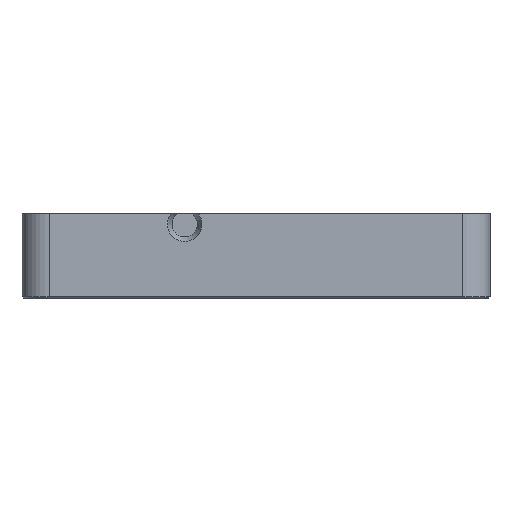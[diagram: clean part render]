
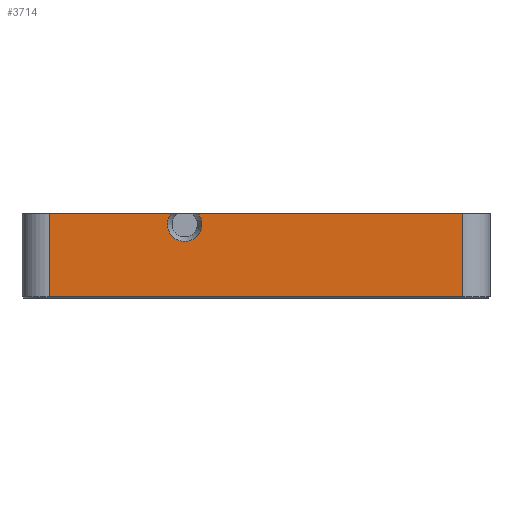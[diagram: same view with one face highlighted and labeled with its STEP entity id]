
A CAD part, left-side view. The second image highlights one B-rep face of the part: STEP entity #3714.
In plain terms, the highlighted planar face has unit normal (-1, 0, 0).
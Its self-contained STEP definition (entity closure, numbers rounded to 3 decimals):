
#100 = CYLINDRICAL_SURFACE('',#101,5.2);
#101 = AXIS2_PLACEMENT_3D('',#102,#103,#104);
#102 = CARTESIAN_POINT('',(-1.6,-76.6,0.));
#103 = DIRECTION('',(0.,0.,1.));
#104 = DIRECTION('',(0.,-1.,0.));
#127 = PLANE('',#128);
#128 = AXIS2_PLACEMENT_3D('',#129,#130,#131);
#129 = CARTESIAN_POINT('',(-7.8,-82.8,16.));
#130 = DIRECTION('',(0.,0.,1.));
#131 = DIRECTION('',(1.,0.,-0.));
#983 = VERTEX_POINT('',#984);
#984 = CARTESIAN_POINT('',(-6.8,-76.6,0.25));
#1006 = EDGE_CURVE('',#983,#1007,#1009,.T.);
#1007 = VERTEX_POINT('',#1008);
#1008 = CARTESIAN_POINT('',(-6.8,-76.6,16.));
#1009 = SURFACE_CURVE('',#1010,(#1014,#1021),.PCURVE_S1.);
#1010 = LINE('',#1011,#1012);
#1011 = CARTESIAN_POINT('',(-6.8,-76.6,0.));
#1012 = VECTOR('',#1013,1.);
#1013 = DIRECTION('',(0.,0.,1.));
#1014 = PCURVE('',#100,#1015);
#1015 = DEFINITIONAL_REPRESENTATION('',(#1016),#1020);
#1016 = LINE('',#1017,#1018);
#1017 = CARTESIAN_POINT('',(-1.571,0.));
#1018 = VECTOR('',#1019,1.);
#1019 = DIRECTION('',(-0.,1.));
#1020 = ( GEOMETRIC_REPRESENTATION_CONTEXT(2) 
PARAMETRIC_REPRESENTATION_CONTEXT() REPRESENTATION_CONTEXT('2D SPACE',''
  ) );
#1021 = PCURVE('',#1022,#1027);
#1022 = PLANE('',#1023);
#1023 = AXIS2_PLACEMENT_3D('',#1024,#1025,#1026);
#1024 = CARTESIAN_POINT('',(-6.8,6.8,0.));
#1025 = DIRECTION('',(1.,0.,-0.));
#1026 = DIRECTION('',(0.,-1.,0.));
#1027 = DEFINITIONAL_REPRESENTATION('',(#1028),#1032);
#1028 = LINE('',#1029,#1030);
#1029 = CARTESIAN_POINT('',(83.4,0.));
#1030 = VECTOR('',#1031,1.);
#1031 = DIRECTION('',(0.,-1.));
#1032 = ( GEOMETRIC_REPRESENTATION_CONTEXT(2) 
PARAMETRIC_REPRESENTATION_CONTEXT() REPRESENTATION_CONTEXT('2D SPACE',''
  ) );
#1135 = VERTEX_POINT('',#1136);
#1136 = CARTESIAN_POINT('',(-6.8,-26.573,16.));
#1151 = CONICAL_SURFACE('',#1152,3.3,0.388);
#1152 = AXIS2_PLACEMENT_3D('',#1153,#1154,#1155);
#1153 = CARTESIAN_POINT('',(-6.9,-24.,14.));
#1154 = DIRECTION('',(-1.,-0.,-0.));
#1155 = DIRECTION('',(-0.,0.,1.));
#1167 = EDGE_CURVE('',#1135,#1007,#1168,.T.);
#1168 = SURFACE_CURVE('',#1169,(#1173,#1179),.PCURVE_S1.);
#1169 = LINE('',#1170,#1171);
#1170 = CARTESIAN_POINT('',(-6.8,-38.,16.));
#1171 = VECTOR('',#1172,1.);
#1172 = DIRECTION('',(0.,-1.,0.));
#1173 = PCURVE('',#127,#1174);
#1174 = DEFINITIONAL_REPRESENTATION('',(#1175),#1178);
#1175 = B_SPLINE_CURVE_WITH_KNOTS('',1,(#1176,#1177),.UNSPECIFIED.,.F.,
  .F.,(2,2),(-39.6,38.6),.PIECEWISE_BEZIER_KNOTS.);
#1176 = CARTESIAN_POINT('',(1.,84.4));
#1177 = CARTESIAN_POINT('',(1.,6.2));
#1178 = ( GEOMETRIC_REPRESENTATION_CONTEXT(2) 
PARAMETRIC_REPRESENTATION_CONTEXT() REPRESENTATION_CONTEXT('2D SPACE',''
  ) );
#1179 = PCURVE('',#1022,#1180);
#1180 = DEFINITIONAL_REPRESENTATION('',(#1181),#1184);
#1181 = B_SPLINE_CURVE_WITH_KNOTS('',1,(#1182,#1183),.UNSPECIFIED.,.F.,
  .F.,(2,2),(-39.6,38.6),.PIECEWISE_BEZIER_KNOTS.);
#1182 = CARTESIAN_POINT('',(5.2,-16.));
#1183 = CARTESIAN_POINT('',(83.4,-16.));
#1184 = ( GEOMETRIC_REPRESENTATION_CONTEXT(2) 
PARAMETRIC_REPRESENTATION_CONTEXT() REPRESENTATION_CONTEXT('2D SPACE',''
  ) );
#2035 = PLANE('',#2036);
#2036 = AXIS2_PLACEMENT_3D('',#2037,#2038,#2039);
#2037 = CARTESIAN_POINT('',(-6.675,1.6,0.125));
#2038 = DIRECTION('',(-0.707,0.,-0.707));
#2039 = DIRECTION('',(-0.,1.,0.));
#2949 = PLANE('',#2950);
#2950 = AXIS2_PLACEMENT_3D('',#2951,#2952,#2953);
#2951 = CARTESIAN_POINT('',(-7.8,-82.8,16.));
#2952 = DIRECTION('',(0.,0.,1.));
#2953 = DIRECTION('',(1.,0.,-0.));
#3160 = CYLINDRICAL_SURFACE('',#3161,5.2);
#3161 = AXIS2_PLACEMENT_3D('',#3162,#3163,#3164);
#3162 = CARTESIAN_POINT('',(-1.6,1.6,0.));
#3163 = DIRECTION('',(0.,0.,1.));
#3164 = DIRECTION('',(-0.,1.,0.));
#3714 = ADVANCED_FACE('',(#3715),#1022,.F.);
#3715 = FACE_BOUND('',#3716,.F.);
#3716 = EDGE_LOOP('',(#3717,#3718,#3741,#3764,#3785,#3807));
#3717 = ORIENTED_EDGE('',*,*,#1006,.F.);
#3718 = ORIENTED_EDGE('',*,*,#3719,.F.);
#3719 = EDGE_CURVE('',#3720,#983,#3722,.T.);
#3720 = VERTEX_POINT('',#3721);
#3721 = CARTESIAN_POINT('',(-6.8,1.6,0.25));
#3722 = SURFACE_CURVE('',#3723,(#3727,#3734),.PCURVE_S1.);
#3723 = LINE('',#3724,#3725);
#3724 = CARTESIAN_POINT('',(-6.8,1.6,0.25));
#3725 = VECTOR('',#3726,1.);
#3726 = DIRECTION('',(0.,-1.,0.));
#3727 = PCURVE('',#1022,#3728);
#3728 = DEFINITIONAL_REPRESENTATION('',(#3729),#3733);
#3729 = LINE('',#3730,#3731);
#3730 = CARTESIAN_POINT('',(5.2,-0.25));
#3731 = VECTOR('',#3732,1.);
#3732 = DIRECTION('',(1.,0.));
#3733 = ( GEOMETRIC_REPRESENTATION_CONTEXT(2) 
PARAMETRIC_REPRESENTATION_CONTEXT() REPRESENTATION_CONTEXT('2D SPACE',''
  ) );
#3734 = PCURVE('',#2035,#3735);
#3735 = DEFINITIONAL_REPRESENTATION('',(#3736),#3740);
#3736 = LINE('',#3737,#3738);
#3737 = CARTESIAN_POINT('',(-0.,-0.177));
#3738 = VECTOR('',#3739,1.);
#3739 = DIRECTION('',(-1.,0.));
#3740 = ( GEOMETRIC_REPRESENTATION_CONTEXT(2) 
PARAMETRIC_REPRESENTATION_CONTEXT() REPRESENTATION_CONTEXT('2D SPACE',''
  ) );
#3741 = ORIENTED_EDGE('',*,*,#3742,.T.);
#3742 = EDGE_CURVE('',#3720,#3743,#3745,.T.);
#3743 = VERTEX_POINT('',#3744);
#3744 = CARTESIAN_POINT('',(-6.8,1.6,16.));
#3745 = SURFACE_CURVE('',#3746,(#3750,#3757),.PCURVE_S1.);
#3746 = LINE('',#3747,#3748);
#3747 = CARTESIAN_POINT('',(-6.8,1.6,0.));
#3748 = VECTOR('',#3749,1.);
#3749 = DIRECTION('',(0.,0.,1.));
#3750 = PCURVE('',#1022,#3751);
#3751 = DEFINITIONAL_REPRESENTATION('',(#3752),#3756);
#3752 = LINE('',#3753,#3754);
#3753 = CARTESIAN_POINT('',(5.2,0.));
#3754 = VECTOR('',#3755,1.);
#3755 = DIRECTION('',(0.,-1.));
#3756 = ( GEOMETRIC_REPRESENTATION_CONTEXT(2) 
PARAMETRIC_REPRESENTATION_CONTEXT() REPRESENTATION_CONTEXT('2D SPACE',''
  ) );
#3757 = PCURVE('',#3160,#3758);
#3758 = DEFINITIONAL_REPRESENTATION('',(#3759),#3763);
#3759 = LINE('',#3760,#3761);
#3760 = CARTESIAN_POINT('',(1.571,0.));
#3761 = VECTOR('',#3762,1.);
#3762 = DIRECTION('',(0.,1.));
#3763 = ( GEOMETRIC_REPRESENTATION_CONTEXT(2) 
PARAMETRIC_REPRESENTATION_CONTEXT() REPRESENTATION_CONTEXT('2D SPACE',''
  ) );
#3764 = ORIENTED_EDGE('',*,*,#3765,.T.);
#3765 = EDGE_CURVE('',#3743,#3766,#3768,.T.);
#3766 = VERTEX_POINT('',#3767);
#3767 = CARTESIAN_POINT('',(-6.8,-21.427,16.));
#3768 = SURFACE_CURVE('',#3769,(#3773,#3779),.PCURVE_S1.);
#3769 = LINE('',#3770,#3771);
#3770 = CARTESIAN_POINT('',(-6.8,-38.,16.));
#3771 = VECTOR('',#3772,1.);
#3772 = DIRECTION('',(0.,-1.,0.));
#3773 = PCURVE('',#1022,#3774);
#3774 = DEFINITIONAL_REPRESENTATION('',(#3775),#3778);
#3775 = B_SPLINE_CURVE_WITH_KNOTS('',1,(#3776,#3777),.UNSPECIFIED.,.F.,
  .F.,(2,2),(-39.6,38.6),.PIECEWISE_BEZIER_KNOTS.);
#3776 = CARTESIAN_POINT('',(5.2,-16.));
#3777 = CARTESIAN_POINT('',(83.4,-16.));
#3778 = ( GEOMETRIC_REPRESENTATION_CONTEXT(2) 
PARAMETRIC_REPRESENTATION_CONTEXT() REPRESENTATION_CONTEXT('2D SPACE',''
  ) );
#3779 = PCURVE('',#2949,#3780);
#3780 = DEFINITIONAL_REPRESENTATION('',(#3781),#3784);
#3781 = B_SPLINE_CURVE_WITH_KNOTS('',1,(#3782,#3783),.UNSPECIFIED.,.F.,
  .F.,(2,2),(-39.6,38.6),.PIECEWISE_BEZIER_KNOTS.);
#3782 = CARTESIAN_POINT('',(1.,84.4));
#3783 = CARTESIAN_POINT('',(1.,6.2));
#3784 = ( GEOMETRIC_REPRESENTATION_CONTEXT(2) 
PARAMETRIC_REPRESENTATION_CONTEXT() REPRESENTATION_CONTEXT('2D SPACE',''
  ) );
#3785 = ORIENTED_EDGE('',*,*,#3786,.F.);
#3786 = EDGE_CURVE('',#1135,#3766,#3787,.T.);
#3787 = SURFACE_CURVE('',#3788,(#3793,#3800),.PCURVE_S1.);
#3788 = CIRCLE('',#3789,3.259);
#3789 = AXIS2_PLACEMENT_3D('',#3790,#3791,#3792);
#3790 = CARTESIAN_POINT('',(-6.8,-24.,14.));
#3791 = DIRECTION('',(1.,0.,0.));
#3792 = DIRECTION('',(-0.,0.,1.));
#3793 = PCURVE('',#1022,#3794);
#3794 = DEFINITIONAL_REPRESENTATION('',(#3795),#3799);
#3795 = CIRCLE('',#3796,3.259);
#3796 = AXIS2_PLACEMENT_2D('',#3797,#3798);
#3797 = CARTESIAN_POINT('',(30.8,-14.));
#3798 = DIRECTION('',(0.,-1.));
#3799 = ( GEOMETRIC_REPRESENTATION_CONTEXT(2) 
PARAMETRIC_REPRESENTATION_CONTEXT() REPRESENTATION_CONTEXT('2D SPACE',''
  ) );
#3800 = PCURVE('',#1151,#3801);
#3801 = DEFINITIONAL_REPRESENTATION('',(#3802),#3806);
#3802 = LINE('',#3803,#3804);
#3803 = CARTESIAN_POINT('',(-0.,-0.1));
#3804 = VECTOR('',#3805,1.);
#3805 = DIRECTION('',(-1.,-0.));
#3806 = ( GEOMETRIC_REPRESENTATION_CONTEXT(2) 
PARAMETRIC_REPRESENTATION_CONTEXT() REPRESENTATION_CONTEXT('2D SPACE',''
  ) );
#3807 = ORIENTED_EDGE('',*,*,#1167,.T.);
